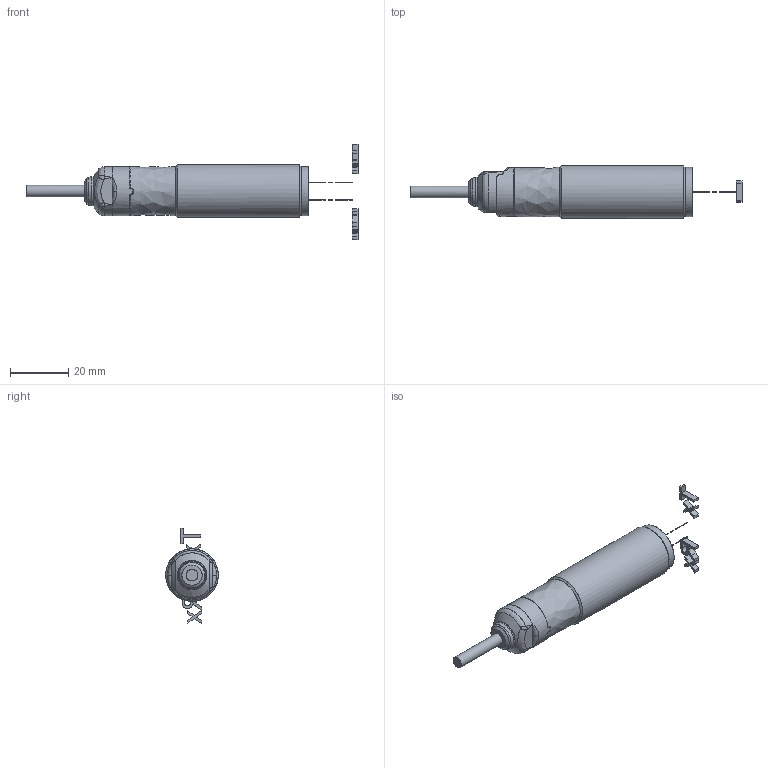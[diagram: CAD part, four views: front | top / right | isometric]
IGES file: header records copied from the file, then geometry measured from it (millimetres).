
Global section: file name: D:\TMP\DSD-0050.igs; preprocessor: I-DEAS 3D IGES Translator 11; date: 20060607.151106; units: millimetre
Bounding box: 113.63 x 17.98 x 32.67 mm (x, y, z)
Surface area: 9910.2 mm2
Topology: 8 solids, 8 shells, 195 faces, 898 edges, 818 vertices
Faces by surface type: bspline 195
